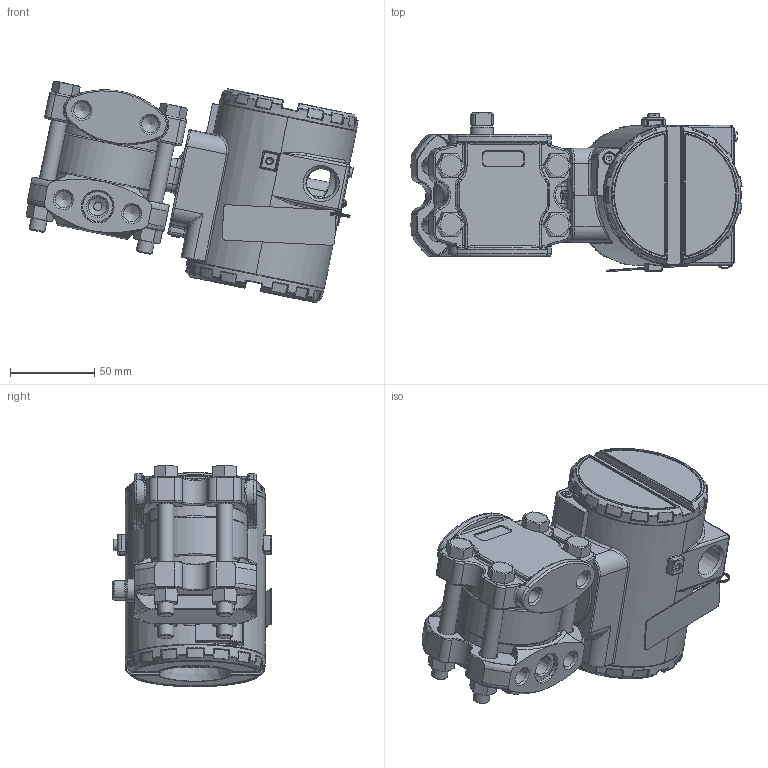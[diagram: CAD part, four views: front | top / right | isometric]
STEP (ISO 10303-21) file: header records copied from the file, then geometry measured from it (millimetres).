
FILE_DESCRIPTION(/* description */ (''),/* implementation_level */ '2;1');
FILE_NAME(/* name */ 'F:\Area\Desenvolvimento_2\Projects\Sensor\projetos\LD30X\montagens 3d - clientes\LD30XM0-3 1-4NPT Monel sem purga.stp',/* time_stamp */ '2023-01-27T09:53:36-03:00',/* author */ ('inventor02'),/* organization */ (''),/* preprocessor_version */ 'ST-DEVELOPER v17',/* originating_system */ 'Autodesk Inventor 2019',/* authorisation */ '');
FILE_SCHEMA (('CONFIG_CONTROL_DESIGN'));
Length unit declared in the file: millimetre
Products named in the file (29): LD30XM0-3 1-4NPT Monel sem purga; manometrico FX3 monel sem purga; involucro fx0-3 apos a usinagem final; 101-C-0040-05 monel barra 7-16; 096-C-0014-13 manom reforçado; bujao 1-4NPT; Paraf. 3-8 x 16 UNC; Porca 3-8 x 16 UNC; carcaça vazia com tampas e plaqueta; carcaça LD inox sem letras; Subconjunto plaqueta 300; Plaqueta transmissor; Parafuso da Plaqueta; Rebite da Plaqueta; 096-A-0169-03; 101-A-0502-01; Chapa aterramento externo; ISO 1207 - M4 x 8; DIN 915 - M6 x 10; ANSI B18.3.1M - M4x0,7 x 8; Subconjunto tampa com visor aluminio; tampa pintada; VIDRO DO VISOR; oring 41x1 vidro tampa; Trava do vidro da tampa com visor; trava do vidro VH256; Subconjunto tampa sem visor-aluminio; tampa cega 300 pintada p0; 00034775-0
Assembly tree (36 placements, depth 4):
  LD30XM0-3 1-4NPT Monel sem purga
    manometrico FX3 monel sem purga
      involucro fx0-3 apos a usinagem final
      101-C-0040-05 monel barra 7-16
      096-C-0014-13 manom reforçado
      bujao 1-4NPT
      Paraf. 3-8 x 16 UNC  x4
      Porca 3-8 x 16 UNC  x4
    carcaça vazia com tampas e plaqueta
      carcaça LD inox sem letras
      Subconjunto plaqueta 300
        Plaqueta transmissor
        Parafuso da Plaqueta
        Rebite da Plaqueta
        096-A-0169-03
        101-A-0502-01
      Chapa aterramento externo
      ISO 1207 - M4 x 8
      DIN 915 - M6 x 10
      ANSI B18.3.1M - M4x0,7 x 8  x2
      Subconjunto tampa com visor aluminio
        tampa pintada
        VIDRO DO VISOR
        oring 41x1 vidro tampa
        Trava do vidro da tampa com visor
        trava do vidro VH256
        00034775-0
      Subconjunto tampa sem visor-aluminio
        tampa cega 300 pintada p0
        00034775-0
Bounding box: 197.06 x 94.6 x 131.45 mm (x, y, z)
Volume: 609175.5 mm3; surface area: 229861.4 mm2
Topology: 31 solids, 31 shells, 2298 faces, 5556 edges, 3287 vertices
Faces by surface type: bspline 587, cylinder 539, plane 453, torus 392, cone 220, sphere 107
Full cylindrical faces by diameter (mm): 2 x2, 2.1 x2, 2.459 x5, 2.642 x1, 2.7 x1, 3 x1, 3.242 x4, 3.5 x4, 3.571 x1, 4 x4, 4.3 x1, 4.4 x1, 4.917 x1, 5 x2, 6 x2, 7 x4, 7.087 x2, 7.6 x2, 7.798 x4, 8.7 x2, 9.525 x4, 9.728 x8, 10.5 x8, 10.719 x2, 12 x1, 13.8 x1, 14 x1, 17.475 x2, 18.5 x2, 26 x1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
Entity records: 82064 total; most frequent: CARTESIAN_POINT 31924, ORIENTED_EDGE 10522, DIRECTION 10085, EDGE_CURVE 5261, AXIS2_PLACEMENT_3D 4432, VERTEX_POINT 3153, CIRCLE 2626, EDGE_LOOP 2312
